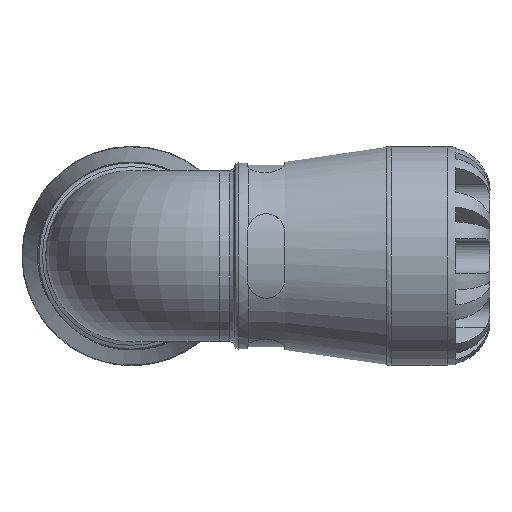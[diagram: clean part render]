
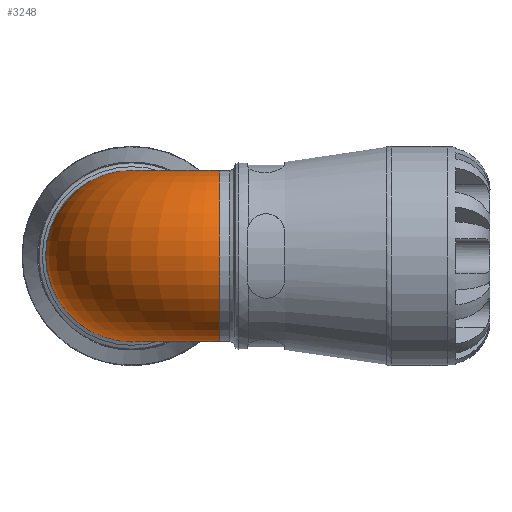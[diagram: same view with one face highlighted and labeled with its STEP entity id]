
A CAD part, front view. The second image highlights one B-rep face of the part: STEP entity #3248.
In plain terms, the highlighted toroidal (fillet/blend) face has major radius 16.468 mm and minor radius 15.99 mm.
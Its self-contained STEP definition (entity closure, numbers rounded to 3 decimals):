
#663=FACE_BOUND('',#889,.T.);
#691=FACE_OUTER_BOUND('',#888,.T.);
#888=EDGE_LOOP('',(#2080));
#889=EDGE_LOOP('',(#2081));
#1112=CIRCLE('',#3449,15.99);
#1113=CIRCLE('',#3450,15.99);
#1288=VERTEX_POINT('',#4730);
#1289=VERTEX_POINT('',#4732);
#1600=EDGE_CURVE('',#1288,#1288,#1112,.T.);
#1601=EDGE_CURVE('',#1289,#1289,#1113,.T.);
#2080=ORIENTED_EDGE('',*,*,#1600,.F.);
#2081=ORIENTED_EDGE('',*,*,#1601,.F.);
#3039=TOROIDAL_SURFACE('',#3448,16.468,15.99);
#3248=ADVANCED_FACE('',(#691,#663),#3039,.T.);
#3448=AXIS2_PLACEMENT_3D('',#4729,#3825,#3826);
#3449=AXIS2_PLACEMENT_3D('',#4731,#3827,#3828);
#3450=AXIS2_PLACEMENT_3D('',#4733,#3829,#3830);
#3825=DIRECTION('center_axis',(0.,0.,1.));
#3826=DIRECTION('ref_axis',(1.,0.,0.));
#3827=DIRECTION('center_axis',(1.,0.,0.));
#3828=DIRECTION('ref_axis',(0.,0.,-1.));
#3829=DIRECTION('center_axis',(0.,1.,0.));
#3830=DIRECTION('ref_axis',(0.,0.,-1.));
#4729=CARTESIAN_POINT('Origin',(16.468,16.468,0.));
#4730=CARTESIAN_POINT('',(16.468,15.99,0.));
#4731=CARTESIAN_POINT('Origin',(16.468,0.,0.));
#4732=CARTESIAN_POINT('',(0.,16.468,-15.99));
#4733=CARTESIAN_POINT('Origin',(0.,16.468,0.));
